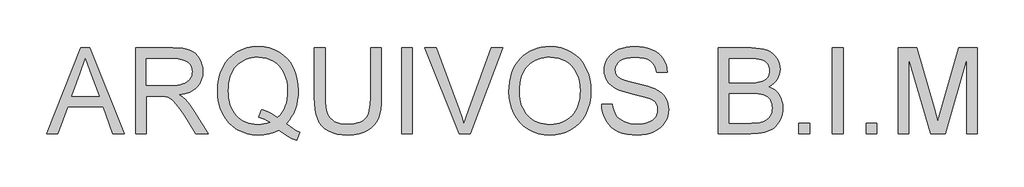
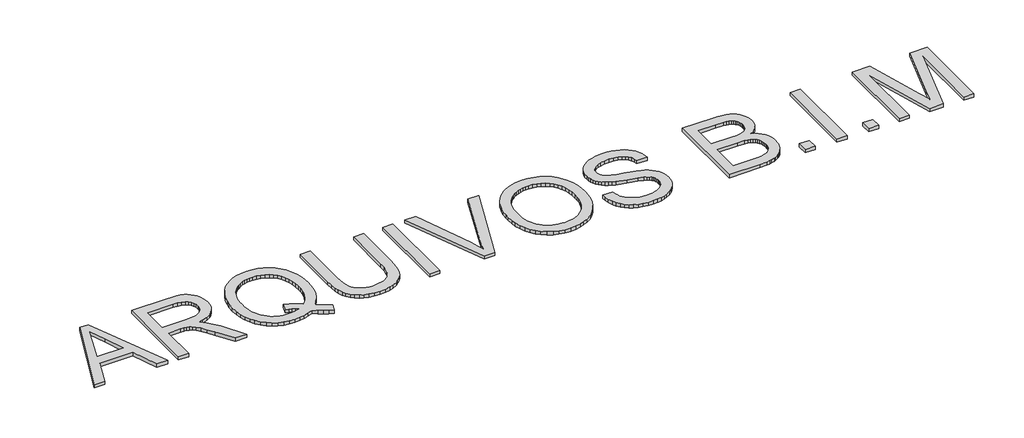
# One storey, part 3 of 4: 1 proxy.
"""IFC4 building model written with IfcOpenShell, lengths in millimetres."""

from ifc_helpers import new_model, si_unit, origin, origin_with_axes, place, context, project, spatial, polyline, outline, extrude, element, save

model = new_model("IFC4")

# Units and contexts
model_context = context("Model", 3, world=origin())
ifc_project = project(units=[si_unit("LENGTHUNIT", "METRE", prefix="MILLI")], contexts=[model_context])

# Site, building, storey
site = spatial("IfcSite", under=ifc_project)
building = spatial("IfcBuilding", under=site)
storey = spatial("IfcBuildingStorey", under=building, Name="Marelli - Linha VIGORE - Planta Baixa", Elevation=0.0)

# Proxy
placement = place(None, origin())
element("IfcBuildingElementProxy", 1, Name="1200mm Arial", ObjectType="1200mm Arial", at=placement, inside=storey, context=model_context, shape_type="SweptSolid", body=[
    extrude(outline(polyline([(-3199.0670013, 18769.4336799), (-2717.8773516, 19974.9094017), (-2589.5601117, 19974.9094017), (-2108.370462, 18769.4336799), (-2267.5897895, 18769.4336799), (-2405.6191141, 19146.144843), (-2902.1126548, 19146.144843), (-3039.8476737, 18769.4336799), (-3199.0670013, 18769.4336799)]), holes=[polyline([(-2846.7832027, 19296.8293082), (-2460.6542605, 19296.8293082), (-2569.2530255, 19593.1950435), (-2653.7187316, 19824.2249365), (-2728.7666586, 19619.093936), (-2846.7832027, 19296.8293082)])]), origin_with_axes(), (0.0, 0.0, 1.0), 50.0),
    extrude(outline(polyline([(-1947.3853009, 18769.4336799), (-1947.3853009, 19974.9094017), (-1427.9359237, 19974.9094017), (-1353.3754403, 19972.8768537), (-1288.3247065, 19966.7792096), (-1232.7837223, 19956.6164695), (-1186.7524876, 19942.3886334), (-1147.5546611, 19923.0012522), (-1112.513901, 19897.3598771), (-1081.6302075, 19865.4645082), (-1054.9035806, 19827.3151453), (-1033.3364986, 19784.9627306), (-1017.9314401, 19740.4582062), (-1008.6884049, 19693.8015722), (-1005.6073932, 19644.9928285), (-1010.7117559, 19583.0782887), (-1026.0248439, 19526.2405204), (-1051.5466574, 19474.4795237), (-1087.2771961, 19427.7952985), (-1109.0857007, 19406.7294558), (-1133.6763128, 19387.6777669), (-1191.2038598, 19355.616851), (-1259.8598371, 19331.6125509), (-1339.6442448, 19315.6648664), (-1289.9801755, 19283.2176744), (-1254.0013164, 19251.2119408), (-1192.2707176, 19178.0034238), (-1131.864494, 19096.1128916), (-930.8537718, 18769.4336799), (-1105.9656015, 18769.4336799), (-1262.8304842, 19019.2991311), (-1325.5911526, 19114.6541442), (-1376.1381388, 19184.6988761), (-1418.2606272, 19232.9282057), (-1455.7478025, 19262.8370119), (-1491.2484151, 19280.384983), (-1527.4112152, 19291.5318075), (-1562.6543103, 19295.504933), (-1614.8199772, 19296.8293082), (-1796.7008356, 19296.8293082), (-1796.7008356, 18769.4336799), (-1947.3853009, 18769.4336799)]), holes=[polyline([(-1796.7008356, 19447.5137734), (-1459.4266225, 19447.5137734), (-1362.5632931, 19452.8480624), (-1322.2710176, 19459.5159235), (-1287.4050015, 19468.8509292), (-1257.1834956, 19481.1197937), (-1230.8247507, 19496.5892316), (-1208.3287667, 19515.2592429), (-1189.6955436, 19537.1298275), (-1175.0814313, 19561.1249306), (-1164.6427797, 19586.1684974), (-1158.3795888, 19612.2605279), (-1156.2918584, 19639.4010221), (-1160.274181, 19677.9366611), (-1172.2211488, 19712.9038448), (-1192.1327618, 19744.3025731), (-1220.00902, 19772.132846), (-1256.4937169, 19794.9231356), (-1302.2306459, 19811.2019139), (-1357.2198072, 19820.9691808), (-1421.4612006, 19824.2249365), (-1796.7008356, 19824.2249365), (-1796.7008356, 19447.5137734)])]), origin_with_axes(), (0.0, 0.0, 1.0), 50.0),
    extrude(outline(polyline([(163.6687403, 18913.9377276), (213.3144155, 18873.8569843), (261.0103162, 18839.5519882), (306.7564423, 18811.0227395), (350.5527938, 18788.2692381), (309.9386215, 18677.9046395), (247.7481703, 18703.4908323), (185.6680836, 18735.51496), (123.6983615, 18773.9770226), (61.839004, 18818.8770201), (-6.1271946, 18789.0050021), (-77.5882722, 18767.6678464), (-152.5442287, 18754.8655529), (-230.9950642, 18750.5981218), (-309.9241462, 18755.5185435), (-385.1376202, 18770.2798085), (-456.6354859, 18794.8819169), (-524.4177435, 18829.3248687), (-586.5438155, 18872.6797619), (-641.0731242, 18924.0176943), (-688.0056697, 18983.338666), (-727.3414521, 19050.642677), (-758.4366777, 19124.1914849), (-780.6475532, 19202.2468473), (-793.9740784, 19284.808764), (-798.4162535, 19371.8772352), (-793.9832755, 19458.7617654), (-780.6843414, 19541.654776), (-758.5194512, 19620.5562669), (-727.4886049, 19695.4662382), (-688.2723842, 19764.030245), (-641.5513708, 19823.8938427), (-587.3255647, 19875.0570312), (-525.5949659, 19917.5198105), (-458.1621962, 19950.8683133), (-386.8298773, 19974.6886725), (-311.5980093, 19988.980888), (-232.4665922, 19993.7449599), (-152.6637904, 19988.8705234), (-76.8892964, 19974.2472141), (-5.1431103, 19949.875032), (62.574768, 19915.7539769), (124.3697461, 19872.8589363), (178.3472319, 19822.1647973), (224.5072252, 19763.6715601), (262.8497262, 19697.3792246), (292.9792616, 19624.9432597), (314.5003583, 19548.0191345), (327.4130163, 19466.606849), (331.7172356, 19380.7064031), (329.1052735, 19309.2821138), (321.269387, 19241.5734325), (308.2095762, 19177.5803595), (289.925841, 19117.3028946), (266.3629992, 19060.777826), (237.4658685, 19008.041942), (203.2344488, 18959.0952425), (163.6687403, 18913.9377276)]), holes=[polyline([(-189.4979751, 19114.3598386), (-123.095275, 19092.7467714), (-62.799416, 19066.4616028), (-8.6103981, 19035.5043329), (39.4717787, 18999.8749617), (72.6501361, 19032.8739767), (101.4047126, 19069.7725408), (125.735508, 19110.5706541), (145.6425225, 19155.2683165), (161.125756, 19203.865528), (172.1852084, 19256.3622887), (178.8208799, 19312.7585986), (181.0327704, 19373.0544576), (177.9057735, 19441.6000704), (168.5247826, 19505.6759169), (152.8897978, 19565.2819971), (131.0008191, 19620.4183112), (103.0877727, 19670.358292), (69.3805849, 19714.3753727), (29.8792557, 19752.4695533), (-15.416215, 19784.6408338), (-65.0710873, 19810.1994354), (-117.6506215, 19828.4555794), (-173.1548175, 19839.4092659), (-231.5836754, 19843.0604947), (-275.5087856, 19841.2141869), (-317.5209094, 19835.6752636), (-357.6200469, 19826.4437248), (-395.806198, 19813.5195704), (-432.0793627, 19796.9028006), (-466.4395411, 19776.5934152), (-498.8867331, 19752.5914143), (-529.4209387, 19724.8967978), (-557.150044, 19693.537157), (-581.1819354, 19658.5400829), (-601.5166127, 19619.9055756), (-618.1540759, 19577.6336351), (-631.0943251, 19531.7242614), (-640.3373602, 19482.1774544), (-645.8831813, 19428.9932142), (-647.7317883, 19372.1715408), (-645.9038746, 19316.9501541), (-640.4201337, 19265.0351068), (-631.2805653, 19216.4263989), (-618.4851697, 19171.1240305), (-602.0339467, 19129.1280015), (-581.9268964, 19090.4383119), (-558.1640188, 19055.0549617), (-530.7453138, 19022.977951), (-500.4847205, 18994.4556001), (-468.1961776, 18969.7362293), (-433.8796853, 18948.8198386), (-397.5352434, 18931.706428), (-359.162852, 18918.3959976), (-318.7625112, 18908.8885473), (-276.3342208, 18903.1840771), (-231.877981, 18901.282587), (-189.4060046, 18903.2139675), (-148.2216153, 18909.0081089), (-108.3248129, 18918.6650113), (-69.7155975, 18932.1846746), (-107.7729899, 18953.9081064), (-146.8972401, 18972.2838121), (-187.088348, 18987.3117916), (-228.3463138, 18998.9920449), (-189.4979751, 19114.3598386)])]), origin_with_axes(), (0.0, 0.0, 1.0), 50.0),
    extrude(outline(polyline([(1348.8373759, 19974.9094017), (1499.5218411, 19974.9094017), (1499.5218411, 19279.465278), (1496.9650613, 19193.3533), (1489.2947217, 19116.6039188), (1476.5108223, 19049.2171343), (1458.6133633, 18991.1929466), (1434.0572401, 18940.3332608), (1401.2973484, 18894.4399819), (1360.3336883, 18853.5131099), (1311.1662596, 18817.5526449), (1253.7398802, 18788.260041), (1187.9993676, 18767.3367526), (1113.944722, 18754.7827795), (1031.5759433, 18750.5981218), (951.2397126, 18754.2401535), (878.5738215, 18765.1662488), (813.57827, 18783.3764075), (756.2530581, 18808.8706298), (706.5889887, 18841.2718365), (664.5768649, 18880.2029487), (630.2166865, 18925.6639662), (603.5084537, 18977.6548892), (583.4864761, 19037.9599453), (569.1850635, 19108.3633621), (560.604216, 19188.8651397), (557.7439335, 19279.465278), (557.7439335, 19974.9094017), (708.4283987, 19974.9094017), (708.4283987, 19284.7627788), (710.2862028, 19211.9129467), (715.859615, 19149.3454164), (725.1486354, 19097.0601878), (738.1532639, 19055.057261), (755.682841, 19020.3016095), (778.546707, 18989.7582068), (806.7448619, 18963.427053), (840.2773058, 18941.3081481), (878.5002451, 18923.7969651), (920.7698863, 18911.2889773), (967.0862295, 18903.7841846), (1017.4492747, 18901.282587), (1100.4986351, 18906.2305998), (1170.7089138, 18921.0746383), (1200.9993976, 18932.2076672), (1228.080111, 18945.8147025), (1251.951054, 18961.8957442), (1272.6122265, 18980.4507924), (1290.4774959, 19002.5237121), (1305.9607294, 19029.1583685), (1319.0619269, 19060.3547617), (1329.7810886, 19096.1128916), (1344.0733041, 19181.3143617), (1348.8373759, 19284.7627788), (1348.8373759, 19974.9094017)])), origin_with_axes(), (0.0, 0.0, 1.0), 50.0),
    extrude(outline(polyline([(1782.0552134, 18769.4336799), (1782.0552134, 19974.9094017), (1932.7396787, 19974.9094017), (1932.7396787, 18769.4336799), (1782.0552134, 18769.4336799)])), origin_with_axes(), (0.0, 0.0, 1.0), 50.0),
    extrude(outline(polyline([(2590.2183804, 18769.4336799), (2110.5002587, 19974.9094017), (2271.7797254, 19974.9094017), (2592.8671308, 19106.4135875), (2628.5516843, 19005.2460388), (2657.9086676, 18910.7003661), (2687.7806856, 19008.6305532), (2722.0672875, 19106.4135875), (3044.0376097, 19974.9094017), (3205.3170764, 19974.9094017), (2745.9060408, 18769.4336799), (2590.2183804, 18769.4336799)])), origin_with_axes(), (0.0, 0.0, 1.0), 50.0),
    extrude(outline(polyline([(3288.8998657, 19356.2790386), (3291.4106603, 19429.0047106), (3298.9430441, 19497.6744835), (3311.4970172, 19562.2883574), (3329.0725796, 19622.8463323), (3351.6697311, 19679.3484083), (3379.2884719, 19731.7945852), (3411.9288019, 19780.1848632), (3449.5907212, 19824.5192421), (3491.2211675, 19864.1815197), (3535.7670785, 19898.5554936), (3583.2284544, 19927.6411639), (3633.6052952, 19951.4385304), (3686.8976007, 19969.9475933), (3743.105371, 19983.1683525), (3802.2286062, 19991.100808), (3864.2673061, 19993.7449599), (3945.366892, 19988.7785529), (4022.3829877, 19973.8793321), (4095.3155932, 19949.0472975), (4164.1647086, 19914.2824489), (4226.9989534, 19870.6332502), (4281.8869471, 19819.148165), (4328.8286896, 19759.8271932), (4367.8241811, 19692.670335), (4398.4687513, 19619.2043006), (4420.35773, 19540.9558002), (4433.4911173, 19457.9248339), (4437.868913, 19370.1114017), (4433.261191, 19281.1391411), (4419.4380251, 19196.9861347), (4396.3994151, 19117.6523825), (4364.1453612, 19043.1378843), (4323.4392184, 18975.410809), (4275.0443419, 18916.4393252), (4218.9607318, 18866.2234329), (4155.1883879, 18824.763132), (4086.238105, 18792.31594), (4014.6206776, 18769.1393743), (3940.3361057, 18755.2334349), (3863.3843893, 18750.5981218), (3780.8684578, 18755.7208786), (3702.8406867, 18771.0891489), (3629.3010758, 18796.7029328), (3560.2496253, 18832.5622303), (3497.4889569, 18877.2782868), (3442.8216925, 18929.4623478), (3396.2478319, 18989.1144134), (3357.7673752, 19056.2344834), (3327.6378398, 19128.1278223), (3306.1167431, 19202.0996945), (3293.204085, 19278.1500999), (3288.8998657, 19356.2790386)]), holes=[polyline([(3439.5843309, 19354.8075107), (3441.4674269, 19303.4557827), (3447.1167148, 19254.9091549), (3456.5321946, 19209.1676273), (3469.7138663, 19166.2311999), (3486.66173, 19126.0998728), (3507.3757856, 19088.7736458), (3531.8560331, 19054.2525191), (3560.1024725, 19022.5364926), (3591.1908004, 18994.1176085), (3624.1967131, 18969.4879089), (3659.1202108, 18948.6473939), (3695.9612933, 18931.5960634), (3734.7199608, 18918.3339175), (3775.3962132, 18908.8609561), (3817.9900504, 18903.1771793), (3862.5014726, 18901.282587), (3907.8268336, 18903.1955734), (3951.096654, 18908.9345325), (3992.3109338, 18918.4994644), (4031.4696729, 18931.890369), (4068.5728714, 18949.1072464), (4103.6205292, 18970.1500965), (4136.6126464, 18995.0189194), (4167.549223, 19023.713715), (4195.5887288, 19055.9263822), (4219.8896338, 19091.3488198), (4240.4519381, 19129.9810278), (4257.2756416, 19171.8230063), (4270.3607443, 19216.8747551), (4279.7072462, 19265.1362743), (4285.3151474, 19316.607564), (4287.1844478, 19371.288624), (4283.9838744, 19440.248104), (4274.3821544, 19504.6826355), (4258.3792876, 19564.5922184), (4235.9752741, 19619.9768528), (4207.4184342, 19670.1099717), (4172.9570883, 19714.2650081), (4132.5912364, 19752.4419622), (4086.3208784, 19784.6408338), (4035.5807542, 19810.1994354), (3981.8056036, 19828.4555794), (3924.9954265, 19839.4092659), (3865.1502229, 19843.0604947), (3822.3517513, 19841.3015589), (3781.0707929, 19836.0247515), (3741.3073478, 19827.2300726), (3703.0614158, 19814.917522), (3666.3329972, 19799.0870999), (3631.1220917, 19779.7388062), (3597.4286995, 19756.872641), (3565.2528205, 19730.4886041), (3535.7992682, 19699.993486), (3510.2728563, 19664.7940768), (3488.6735846, 19624.8903767), (3471.0014533, 19580.2823855), (3457.2564622, 19530.9701033), (3447.4386115, 19476.9535301), (3441.5479011, 19418.2326659), (3439.5843309, 19354.8075107)])]), origin_with_axes(), (0.0, 0.0, 1.0), 50.0),
    extrude(outline(polyline([(4588.5533782, 19183.8159593), (4739.2378435, 19183.8159593), (4746.1356309, 19139.9552284), (4756.5282972, 19100.1963818), (4770.4158426, 19064.5394194), (4787.7982668, 19032.9843413), (4809.5584868, 19004.8965509), (4836.5794194, 18979.641452), (4868.8610645, 18957.2190444), (4906.4034221, 18937.6293281), (4947.8269347, 18921.7276289), (4991.752045, 18910.3692723), (5038.1787527, 18903.5542583), (5087.1070581, 18901.282587), (5130.3883748, 18903.0024353), (5171.0577294, 18908.1619803), (5209.1151218, 18916.761222), (5244.560552, 18928.8001602), (5276.5203004, 18943.8465338), (5304.1206471, 18961.4680814), (5327.3615921, 18981.6648029), (5346.2431355, 19004.4366985), (5360.8572478, 19028.7996836), (5371.2958994, 19053.769674), (5377.5590903, 19079.3466697), (5379.6468207, 19105.5306707), (5378.0833222, 19131.6043071), (5373.3928267, 19155.9672923), (5365.5753344, 19178.6196261), (5354.630845, 19199.5613087), (5338.8487074, 19218.9027046), (5316.5182703, 19236.7541784), (5287.6395337, 19253.1157301), (5252.2124975, 19267.9873598), (5172.639622, 19291.6421721), (5032.8076756, 19325.5241038), (4888.7818745, 19363.5998903), (4836.2207344, 19381.9480049), (4796.6274347, 19399.8362669), (4756.3903415, 19423.8405671), (4721.6162959, 19450.5304058), (4692.3052979, 19479.9057831), (4668.4573476, 19511.966699), (4649.9804744, 19546.3820596), (4636.7827078, 19582.8207713), (4628.8640479, 19621.2828339), (4626.2244945, 19661.7682474), (4629.4894473, 19706.6406538), (4639.2843054, 19750.0231381), (4655.6090689, 19791.9157003), (4678.4637379, 19832.3183404), (4707.5907948, 19869.5847865), (4742.7327224, 19902.0687667), (4783.8895206, 19929.7702809), (4831.0611895, 19952.6893292), (4882.6566393, 19970.6511676), (4937.0847805, 19983.4810522), (4994.345613, 19991.178983), (5054.4391369, 19993.7449599), (5119.9957085, 19991.0594213), (5181.5791545, 19983.0028056), (5239.1894749, 19969.5751128), (5292.8266698, 19950.7763428), (5341.4974578, 19926.7720427), (5384.2085574, 19897.7277591), (5420.9599687, 19863.6434923), (5451.7516917, 19824.5192421), (5476.3446031, 19781.4954428), (5494.4995796, 19735.7125285), (5506.2166211, 19687.1704992), (5511.4957277, 19635.869355), (5360.8112625, 19635.869355), (5350.7312958, 19683.9515317), (5333.1465365, 19725.7797146), (5308.0569844, 19761.3539035), (5275.4626396, 19790.6740985), (5234.7564969, 19813.5931468), (5185.3315508, 19829.9638956), (5127.1878015, 19839.7863449), (5060.3252489, 19843.0604947), (4991.3289807, 19839.8231331), (4932.3758909, 19830.1110484), (4883.4659797, 19813.9242406), (4844.5992469, 19791.2627097), (4814.9847463, 19764.021048), (4793.8315315, 19734.0938477), (4781.1396027, 19701.4811088), (4776.9089598, 19666.1828314), (4779.907198, 19635.8141727), (4788.9019128, 19608.2782053), (4803.8931041, 19583.5749294), (4824.8807719, 19561.7043447), (4857.9165751, 19540.9925884), (4909.9350892, 19520.0601029), (4980.9363143, 19498.9068882), (5070.9202503, 19477.5329442), (5237.0557593, 19437.1395012), (5295.5122084, 19418.8741601), (5337.5611204, 19401.896406), (5383.757902, 19376.1630605), (5423.4615663, 19347.2291416), (5456.6721134, 19315.0946493), (5483.3895433, 19279.7595836), (5503.9265557, 19241.4078856), (5518.5958502, 19200.2234963), (5527.397427, 19156.2064156), (5530.3312859, 19109.3566435), (5526.9559686, 19062.2217628), (5516.8300167, 19016.4664397), (5499.9534301, 18972.090674), (5476.326209, 18929.0944658), (5446.3622205, 18889.1424812), (5410.4753319, 18853.899386), (5368.6655431, 18823.3651804), (5320.9328542, 18797.5398644), (5268.6660198, 18777.002852), (5213.2537942, 18762.3335574), (5154.6961777, 18753.5319807), (5092.99317, 18750.5981218), (5015.912695, 18753.7619069), (4945.3621254, 18763.2532624), (4881.3414612, 18779.0721882), (4823.8507024, 18801.2186843), (4772.5403611, 18829.7295389), (4727.0609494, 18864.6415403), (4687.4124674, 18905.9546883), (4653.594915, 18953.6689831), (4626.3532532, 19006.2393202), (4606.4324432, 19062.1205953), (4593.8324849, 19121.3128083), (4588.5533782, 19183.8159593)])), origin_with_axes(), (0.0, 0.0, 1.0), 50.0),
    extrude(outline(polyline([(6227.2469376, 18769.4336799), (6227.2469376, 19974.9094017), (6687.2465843, 19974.9094017), (6753.9711812, 19972.6929127), (6813.7612025, 19966.0434456), (6866.6166481, 19954.9610005), (6912.5375182, 19939.4455774), (6952.6918379, 19919.3316293), (6988.2476328, 19894.4536094), (7019.2049027, 19864.8115176), (7045.5636476, 19830.405354), (7066.6156948, 19793.1756961), (7081.6528714, 19755.0631214), (7090.6751773, 19716.0676299), (7093.6826126, 19676.1892216), (7091.1534239, 19639.3550369), (7083.5658577, 19603.606104), (7070.9199141, 19568.942423), (7053.2155931, 19535.3639939), (7030.3977124, 19503.9192804), (7002.4110896, 19475.6567461), (6969.2557248, 19450.5763911), (6930.9316179, 19428.6782153), (6976.4110296, 19409.2908341), (7016.317029, 19384.0909175), (7050.6496162, 19353.0784653), (7079.4087912, 19316.2534776), (7102.1347014, 19274.7379944), (7118.3674945, 19229.6540559), (7128.1071703, 19181.001662), (7131.3537289, 19128.7808128), (7129.1372399, 19085.9869397), (7122.4877728, 19044.7197769), (7111.4053277, 19004.9793244), (7095.8899046, 18966.7655821), (7077.1003317, 18931.4673047), (7056.1954373, 18900.4732466), (7033.1752214, 18873.7834079), (7008.0396841, 18851.3977885), (6980.2002141, 18832.3966834), (6949.0682003, 18815.8603877), (6914.6436426, 18801.7889014), (6876.926541, 18790.1822245), (6835.3282844, 18781.1047362), (6789.2602616, 18774.6208161), (6683.7149172, 18769.4336799), (6227.2469376, 18769.4336799)]), holes=[polyline([(6377.9314028, 19485.1848897), (6653.1071352, 19485.1848897), (6749.3450651, 19488.4222513), (6813.7979907, 19498.134336), (6843.8999349, 19507.9108), (6870.0471477, 19520.4647731), (6892.2396291, 19535.7962552), (6910.477379, 19553.9052464), (6924.7052152, 19574.662988), (6934.8679553, 19597.9407213), (6940.9655993, 19623.7384462), (6942.9981474, 19652.0561628), (6941.1035551, 19679.1690658), (6935.4197783, 19704.5897117), (6925.9468169, 19728.3181004), (6912.684671, 19750.3542319), (6895.8908579, 19769.8795688), (6875.8228951, 19786.0755736), (6852.4807825, 19798.9422464), (6825.8645201, 19808.4795871), (6792.5711995, 19815.3681775), (6749.1979123, 19820.2885992), (6632.2114378, 19824.2249365), (6377.9314028, 19824.2249365), (6377.9314028, 19485.1848897)]), polyline([(6377.9314028, 18920.1181452), (6686.9522787, 18920.1181452), (6754.6425658, 18921.5896731), (6798.7884053, 18926.0042571), (6850.6965548, 18939.0640679), (6893.4076544, 18958.819331), (6928.1357148, 18987.1094565), (6956.0947464, 19025.7738542), (6966.8460977, 19048.5641438), (6974.5256344, 19073.0834788), (6979.1333563, 19099.3318591), (6980.6692637, 19127.3092848), (6978.8666419, 19159.9036296), (6973.4587766, 19190.2906824), (6964.4456677, 19218.4704432), (6951.8273153, 19244.4429121), (6935.1714579, 19267.463128), (6914.0458343, 19286.7861297), (6888.4504445, 19302.4119175), (6858.3852885, 19314.3404912), (6822.525991, 19323.160462), (6779.5481769, 19329.4604412), (6672.2369989, 19334.5004245), (6377.9314028, 19334.5004245), (6377.9314028, 18920.1181452)])]), origin_with_axes(), (0.0, 0.0, 1.0), 50.0),
    extrude(outline(polyline([(7357.3804267, 18769.4336799), (7357.3804267, 18920.1181452), (7508.064892, 18920.1181452), (7508.064892, 18769.4336799), (7357.3804267, 18769.4336799)])), origin_with_axes(), (0.0, 0.0, 1.0), 50.0),
    extrude(outline(polyline([(7828.2693806, 18769.4336799), (7828.2693806, 19974.9094017), (7978.9538458, 19974.9094017), (7978.9538458, 18769.4336799), (7828.2693806, 18769.4336799)])), origin_with_axes(), (0.0, 0.0, 1.0), 50.0),
    extrude(outline(polyline([(8299.1583344, 18769.4336799), (8299.1583344, 18920.1181452), (8449.8427996, 18920.1181452), (8449.8427996, 18769.4336799), (8299.1583344, 18769.4336799)])), origin_with_axes(), (0.0, 0.0, 1.0), 50.0),
    extrude(outline(polyline([(8751.2117301, 18769.4336799), (8751.2117301, 19974.9094017), (9010.4949603, 19974.9094017), (9257.1230498, 19125.2491457), (9306.8606956, 18947.7828712), (9360.7186197, 19139.9644255), (9603.2264309, 19974.9094017), (9862.5096611, 19974.9094017), (9862.5096611, 18769.4336799), (9711.8251959, 18769.4336799), (9711.8251959, 19824.2249365), (9408.9847374, 18769.4336799), (9204.7366537, 18769.4336799), (8901.8961953, 19824.2249365), (8901.8961953, 18769.4336799), (8751.2117301, 18769.4336799)])), origin_with_axes(), (0.0, 0.0, 1.0), 50.0),
])

save(model, "model.ifc")
